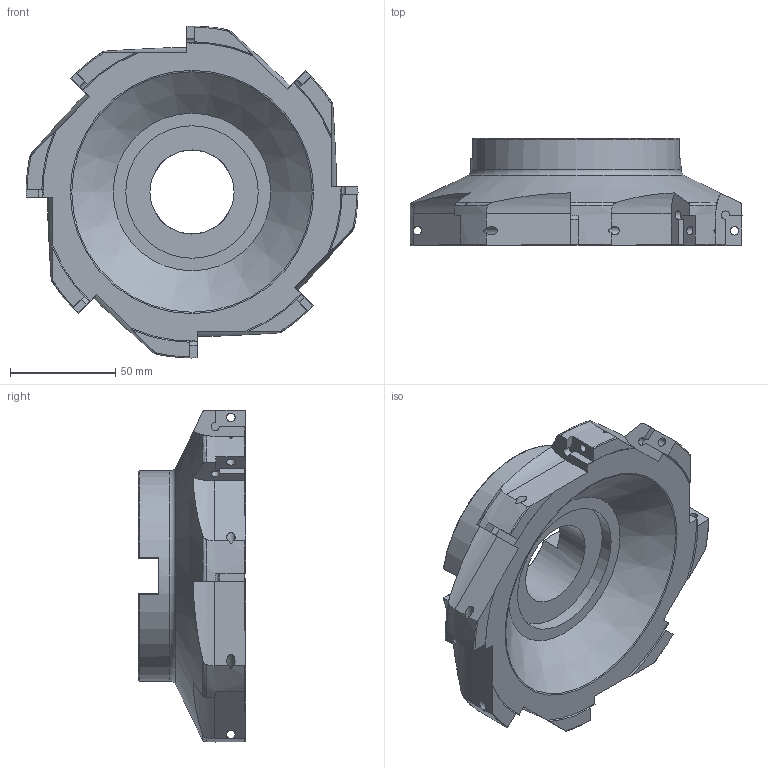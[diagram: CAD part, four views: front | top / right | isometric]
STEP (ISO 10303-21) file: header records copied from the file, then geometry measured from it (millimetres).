
FILE_DESCRIPTION(/* description */ (''),/* implementation_level */ '2;1');
FILE_NAME(/* name */ 'X:\Проектный отдел\Слава\STEP\BAP400R-160-40-8T.stp',/* time_stamp */ '2022-07-28T09:58:59+03:00',/* author */ ('Евгений'),/* organization */ (''),/* preprocessor_version */ 'ST-DEVELOPER v18',/* originating_system */ 'Autodesk Inventor 2020',/* authorisation */ '');
FILE_SCHEMA (('AUTOMOTIVE_DESIGN { 1 0 10303 214 3 1 1 }'));
Length unit declared in the file: millimetre
Products named in the file (1): BAP400R-63-22-4T
Bounding box: 158 x 51 x 158 mm (x, y, z)
Volume: 450689.5 mm3; surface area: 59480.9 mm2
Topology: 1 solids, 1 shells, 156 faces, 491 edges, 330 vertices
Faces by surface type: plane 73, cylinder 35, torus 20, cone 16, bspline 12
Full cylindrical faces by diameter (mm): 4 x8, 40 x1, 63 x1, 100 x1
Entity records: 6322 total; most frequent: CARTESIAN_POINT 2074, ORIENTED_EDGE 982, DIRECTION 799, EDGE_CURVE 491, VERTEX_POINT 330, AXIS2_PLACEMENT_3D 299, LINE 201, VECTOR 201
